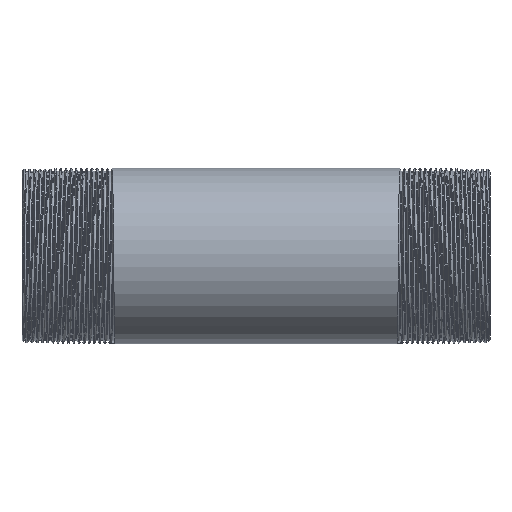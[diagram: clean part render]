
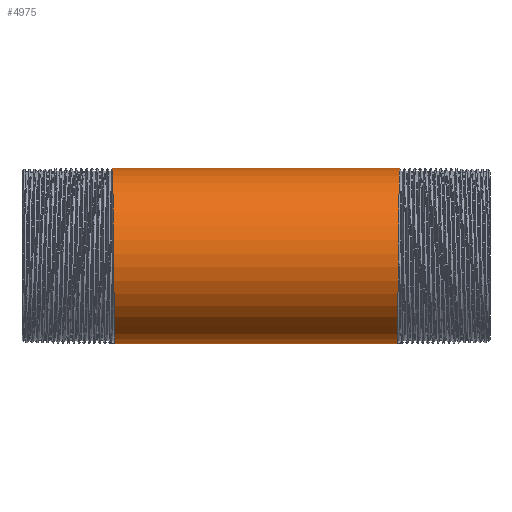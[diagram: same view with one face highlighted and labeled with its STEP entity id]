
A CAD part, front view. The second image highlights one B-rep face of the part: STEP entity #4975.
In plain terms, the highlighted cylindrical face has radius 16.85 mm (diameter 33.7 mm), a partial arc.
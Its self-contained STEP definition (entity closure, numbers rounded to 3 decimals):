
#191 = CARTESIAN_POINT ( 'NONE',  ( -149.494, 0., -16.85 ) ) ;
#497 = CARTESIAN_POINT ( 'NONE',  ( -27.313, -16.85, -6.979 ) ) ;
#580 = EDGE_CURVE ( 'NONE', #7336, #5938, #9875, .T. ) ;
#921 =( BOUNDED_CURVE ( )  B_SPLINE_CURVE ( 2, ( #10265, #1664, #13556, #497, #8859, #1744, #12536, #6515, #4246 ),
 .UNSPECIFIED., .F., .F. ) 
 B_SPLINE_CURVE_WITH_KNOTS ( ( 3, 2, 2, 2, 3 ),
 ( 0., 0.006, 0.011, 0.017, 0.023 ),
 .UNSPECIFIED. ) 
 CURVE ( )  GEOMETRIC_REPRESENTATION_ITEM ( )  RATIONAL_B_SPLINE_CURVE ( ( 1., 0.924, 1., 0.924, 1., 0.924, 1., 0.924, 1. ) ) 
 REPRESENTATION_ITEM ( '' )  );
#1664 = CARTESIAN_POINT ( 'NONE',  ( -27.188, -6.979, -16.85 ) ) ;
#1744 = CARTESIAN_POINT ( 'NONE',  ( -27.438, -16.85, 6.979 ) ) ;
#2527 = LINE ( 'NONE', #191, #13342 ) ;
#2701 = VERTEX_POINT ( 'NONE', #6475 ) ;
#2761 = CARTESIAN_POINT ( 'NONE',  ( -149.494, 0., 16.85 ) ) ;
#3067 = VECTOR ( 'NONE', #11208, 1000. ) ;
#3148 = CARTESIAN_POINT ( 'NONE',  ( 27.5, -11.915, 11.915 ) ) ;
#3151 = CARTESIAN_POINT ( 'NONE',  ( 27.625, 0., 16.85 ) ) ;
#3372 = CARTESIAN_POINT ( 'NONE',  ( 27.563, -6.979, 16.85 ) ) ;
#3401 = DIRECTION ( 'NONE',  ( 0., 0., 1. ) ) ;
#3479 = FACE_OUTER_BOUND ( 'NONE', #9575, .T. ) ;
#3608 =( BOUNDED_CURVE ( )  B_SPLINE_CURVE ( 2, ( #4559, #9249, #13881, #10271, #15207, #14099, #3148, #3372, #9180 ),
 .UNSPECIFIED., .F., .F. ) 
 B_SPLINE_CURVE_WITH_KNOTS ( ( 3, 2, 2, 2, 3 ),
 ( 0., 0.006, 0.011, 0.017, 0.023 ),
 .UNSPECIFIED. ) 
 CURVE ( )  GEOMETRIC_REPRESENTATION_ITEM ( )  RATIONAL_B_SPLINE_CURVE ( ( 1., 0.924, 1., 0.924, 1., 0.924, 1., 0.924, 1. ) ) 
 REPRESENTATION_ITEM ( '' )  );
#4224 = EDGE_CURVE ( 'NONE', #2701, #5938, #921, .T. ) ;
#4246 = CARTESIAN_POINT ( 'NONE',  ( -27.625, 0., 16.85 ) ) ;
#4559 = CARTESIAN_POINT ( 'NONE',  ( 27.125, 0., -16.85 ) ) ;
#4975 = ADVANCED_FACE ( 'NONE', ( #3479 ), #8253, .T. ) ;
#5378 = VERTEX_POINT ( 'NONE', #10733 ) ;
#5938 = VERTEX_POINT ( 'NONE', #15124 ) ;
#6475 = CARTESIAN_POINT ( 'NONE',  ( -27.125, 0., -16.85 ) ) ;
#6515 = CARTESIAN_POINT ( 'NONE',  ( -27.563, -6.979, 16.85 ) ) ;
#6932 = DIRECTION ( 'NONE',  ( -1., 0., 0. ) ) ;
#7195 = ORIENTED_EDGE ( 'NONE', *, *, #4224, .F. ) ;
#7246 = CARTESIAN_POINT ( 'NONE',  ( -149.494, 0., 0. ) ) ;
#7336 = VERTEX_POINT ( 'NONE', #3151 ) ;
#7992 = ORIENTED_EDGE ( 'NONE', *, *, #12815, .F. ) ;
#8253 = CYLINDRICAL_SURFACE ( 'NONE', #12061, 16.85 ) ;
#8859 = CARTESIAN_POINT ( 'NONE',  ( -27.375, -16.85, 0. ) ) ;
#8976 = ORIENTED_EDGE ( 'NONE', *, *, #12041, .T. ) ;
#9180 = CARTESIAN_POINT ( 'NONE',  ( 27.625, 0., 16.85 ) ) ;
#9249 = CARTESIAN_POINT ( 'NONE',  ( 27.188, -6.979, -16.85 ) ) ;
#9575 = EDGE_LOOP ( 'NONE', ( #7992, #8976, #11280, #7195 ) ) ;
#9718 = DIRECTION ( 'NONE',  ( -1., 0., 0. ) ) ;
#9875 = LINE ( 'NONE', #2761, #3067 ) ;
#10265 = CARTESIAN_POINT ( 'NONE',  ( -27.125, 0., -16.85 ) ) ;
#10271 = CARTESIAN_POINT ( 'NONE',  ( 27.313, -16.85, -6.979 ) ) ;
#10733 = CARTESIAN_POINT ( 'NONE',  ( 27.125, 0., -16.85 ) ) ;
#11208 = DIRECTION ( 'NONE',  ( -1., 0., 0. ) ) ;
#11280 = ORIENTED_EDGE ( 'NONE', *, *, #580, .T. ) ;
#12041 = EDGE_CURVE ( 'NONE', #5378, #7336, #3608, .T. ) ;
#12061 = AXIS2_PLACEMENT_3D ( 'NONE', #7246, #6932, #3401 ) ;
#12536 = CARTESIAN_POINT ( 'NONE',  ( -27.5, -11.915, 11.915 ) ) ;
#12815 = EDGE_CURVE ( 'NONE', #5378, #2701, #2527, .T. ) ;
#13342 = VECTOR ( 'NONE', #9718, 1000. ) ;
#13556 = CARTESIAN_POINT ( 'NONE',  ( -27.25, -11.915, -11.915 ) ) ;
#13881 = CARTESIAN_POINT ( 'NONE',  ( 27.25, -11.915, -11.915 ) ) ;
#14099 = CARTESIAN_POINT ( 'NONE',  ( 27.438, -16.85, 6.979 ) ) ;
#15124 = CARTESIAN_POINT ( 'NONE',  ( -27.625, 0., 16.85 ) ) ;
#15207 = CARTESIAN_POINT ( 'NONE',  ( 27.375, -16.85, 0. ) ) ;
